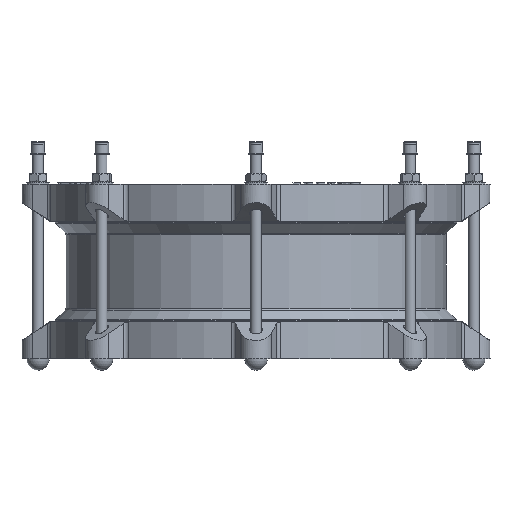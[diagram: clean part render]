
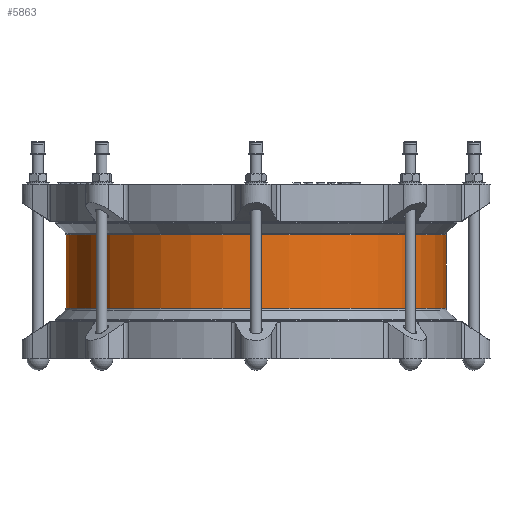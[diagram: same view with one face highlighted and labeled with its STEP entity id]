
A CAD part, front view. The second image highlights one B-rep face of the part: STEP entity #5863.
In plain terms, the highlighted cylindrical face has radius 237.5 mm (diameter 475 mm), a full revolution.
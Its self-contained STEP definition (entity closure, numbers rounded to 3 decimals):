
#5863=ADVANCED_FACE('',(#10963,#10965),#10967,.T.);
#10963=FACE_OUTER_BOUND('',#10964,.T.);
#10964=EDGE_LOOP('',(#16167));
#10965=FACE_OUTER_BOUND('',#10966,.T.);
#10966=EDGE_LOOP('',(#16168));
#10967=CYLINDRICAL_SURFACE('',#10968,237.5);
#10968=AXIS2_PLACEMENT_3D('',#10969,#10970,#10971);
#10969=CARTESIAN_POINT('',(0.,0.,47.257));
#10970=DIRECTION('',(0.,0.,-1.));
#10971=DIRECTION('',(0.,1.,0.));
#16167=ORIENTED_EDGE('',*,*,#18431,.T.);
#16168=ORIENTED_EDGE('',*,*,#18432,.F.);
#18431=EDGE_CURVE('',#21553,#21553,#21554,.T.);
#18432=EDGE_CURVE('',#21555,#21555,#21556,.T.);
#21553=VERTEX_POINT('',#33222);
#21554=CIRCLE('',#33223,237.5);
#21555=VERTEX_POINT('',#33227);
#21556=CIRCLE('',#33228,237.5);
#33222=CARTESIAN_POINT('',(0.,237.5,46.015));
#33223=AXIS2_PLACEMENT_3D('',#33224,#33225,#33226);
#33224=CARTESIAN_POINT('',(0.,0.,46.015));
#33225=DIRECTION('',(0.,0.,-1.));
#33226=DIRECTION('',(0.,1.,0.));
#33227=CARTESIAN_POINT('',(0.,237.5,-46.015));
#33228=AXIS2_PLACEMENT_3D('',#33229,#33230,#33231);
#33229=CARTESIAN_POINT('',(0.,0.,-46.015));
#33230=DIRECTION('',(0.,0.,-1.));
#33231=DIRECTION('',(0.,1.,0.));
